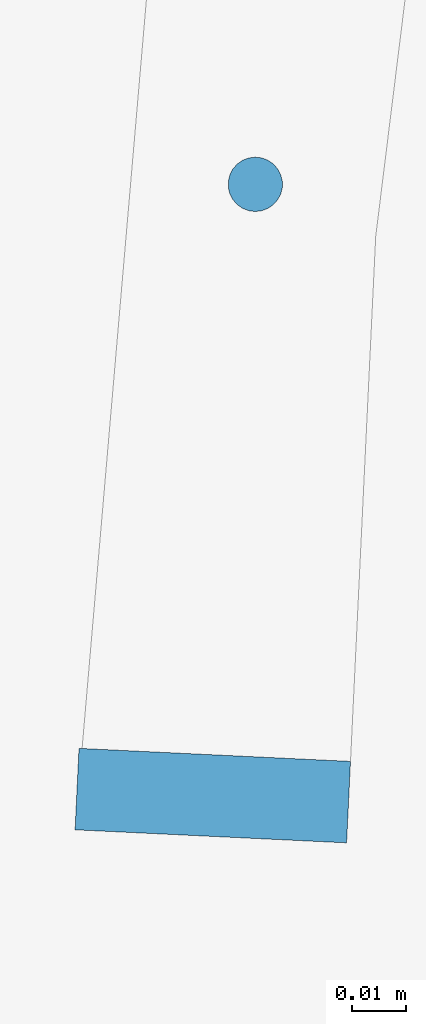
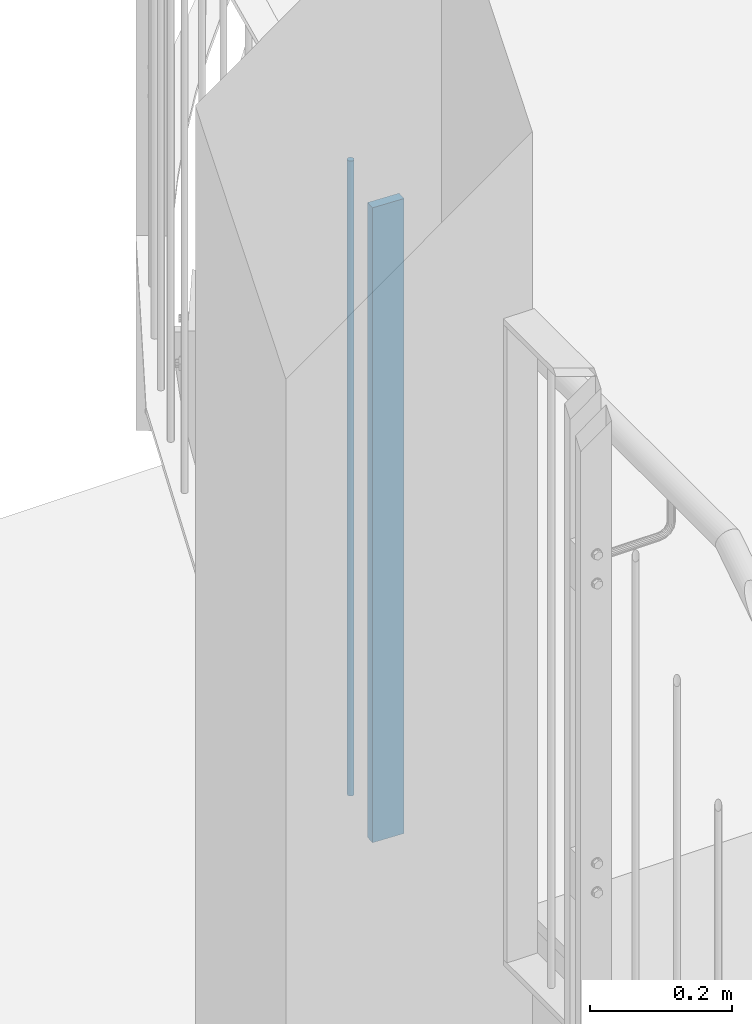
# One storey, part 51 of 296: 2 columns.
"""IFC2X3 building model written with IfcOpenShell, lengths in millimetres."""

from ifc_helpers import new_model, entity, si_unit, converted_unit, frame, origin, origin_with_axes, origin_2d, place, context, project, spatial, rectangle, circle, extrude, material, element, save


model = new_model("IFC2X3")

# Units and contexts
model_context = context("Model", 3, precision=1e-09, world=origin_with_axes())
ifc_project = project(units=[si_unit("LENGTHUNIT", "METRE", prefix="MILLI"), si_unit("AREAUNIT", "SQUARE_METRE"), si_unit("VOLUMEUNIT", "CUBIC_METRE"), converted_unit("PLANEANGLEUNIT", "DEGREE", entity("IfcPlaneAngleMeasure", 0.01745329), si_unit("PLANEANGLEUNIT", "RADIAN"), dimensions=[0, 0, 0, 0, 0, 0, 0])], contexts=[model_context])

# Site, building, storey
site_placement = place(None, origin_with_axes())
site = spatial("IfcSite", under=ifc_project, at=site_placement, Name="TZD-S?d | Treppenhausgel?nder", CompositionType="ELEMENT")
building_placement = place(site_placement, origin_with_axes())
building = spatial("IfcBuilding", under=site, at=building_placement, Name="Struktur 1", CompositionType="ELEMENT")
storey_placement = place(building_placement, origin_with_axes())
storey = spatial("IfcBuildingStorey", under=building, at=storey_placement, Name="Default Storey", CompositionType="ELEMENT", Elevation=0.0)

# Columns
ifc_material = material(Name="S235JR")
column_1_placement = place(None, frame((-53.37643005, 163.389143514, 2450.0), z_axis=(0.0, 0.0, 1.0), x_axis=(0.0, 1.0, 0.0)))
element("IfcColumn", 1, at=column_1_placement, inside=storey, material=ifc_material, Name="-", ObjectType="-", context=model_context, shape_type="SweptSolid", body=[
    extrude(circle(Radius=5.0, at=origin_2d()), origin(), (0.0, 0.0, 1.0), 1090.0),
])
column_2_placement = place(None, frame((-61.196839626, 50.945967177, 3540.0), z_axis=(0.0, 0.0, -1.0), x_axis=(-0.047978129, -0.998848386, 0.0)))
element("IfcColumn", 2, at=column_2_placement, inside=storey, material=ifc_material, Name="-", ObjectType="-", context=model_context, shape_type="SweptSolid", body=[
    extrude(rectangle(XDim=15.0, YDim=50.0, at=origin_2d()), origin(), (0.0, 0.0, 1.0), 1090.0),
])

save(model, "model.ifc")
